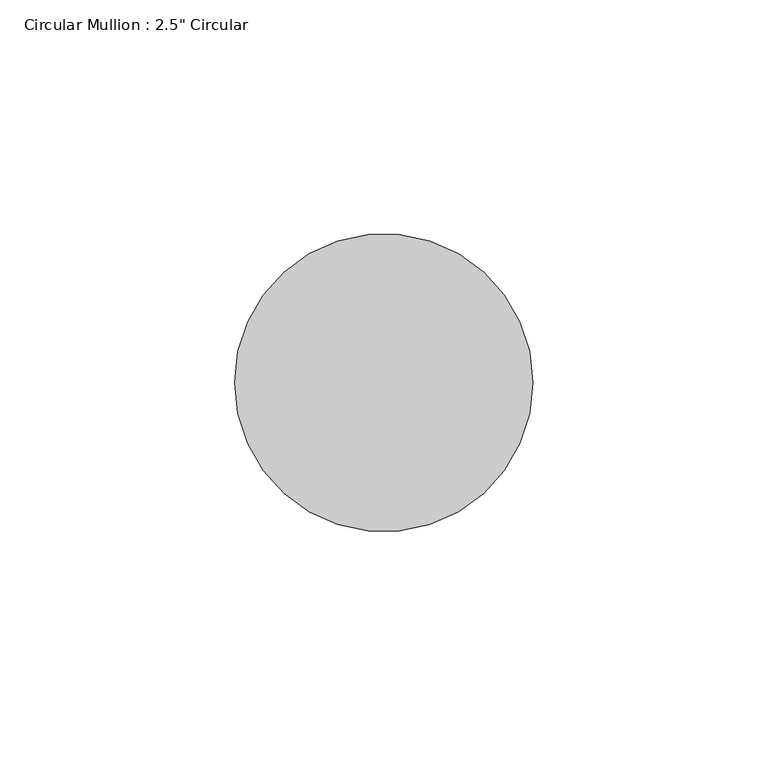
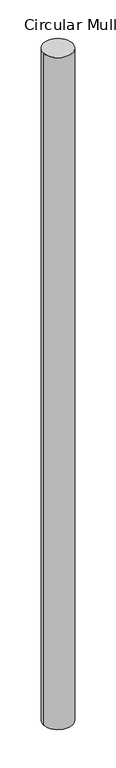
"""IFC4 building model written with IfcOpenShell, lengths in millimetres: member geometry."""

from ifc_helpers import new_model, si_unit, point, frame, origin, origin_2d, place, context, project, spatial, circle_curve, trimmed, segment, composite_curve, outline, extrude, source, transform, mapped, element, save


def member_d72a8ed7(model_context):
    return source(origin(), model_context, "Body", "SweptSolid", [
        extrude(outline(composite_curve([segment(trimmed(circle_curve(origin_2d(), 31.75), [point((31.75, 0.0))], [point((-31.75, 0.0))], False, "CARTESIAN"), True, "CONTINUOUS"), segment(trimmed(circle_curve(origin_2d(), 31.75), [point((-31.75, 0.0))], [point((31.75, 0.0))], False, "CARTESIAN"), True, "CONTINUOUS")], self_intersect=False)), frame((0.0, 0.0, -1542.1417625), z_axis=(0.0, 0.0, 1.0), x_axis=(1.0, 0.0, 0.0)), (0.0, 0.0, 1.0), 1542.1417625),
    ])


if __name__ == "__main__":
    model = new_model("IFC4")
    model_context = context("Model", 3, world=origin())
    ifc_project = project(units=[si_unit("LENGTHUNIT", "METRE", prefix="MILLI")], contexts=[model_context])
    site = spatial("IfcSite", under=ifc_project)
    building = spatial("IfcBuilding", under=site)
    placement = place(None, origin())
    member_shape = member_d72a8ed7(model_context)
    element("IfcMember", 1, ObjectType="Circular Mullion : 2.5\" Circular", at=placement, inside=building, context=model_context, shape_type="MappedRepresentation", body=[
        mapped(member_shape, transform((0.0, 0.0, 0.0), x_axis=(1.0, 0.0, 0.0), y_axis=(0.0, 1.0, 0.0), z_axis=(0.0, 0.0, 1.0))),
    ])
    save(model, "model.ifc")
